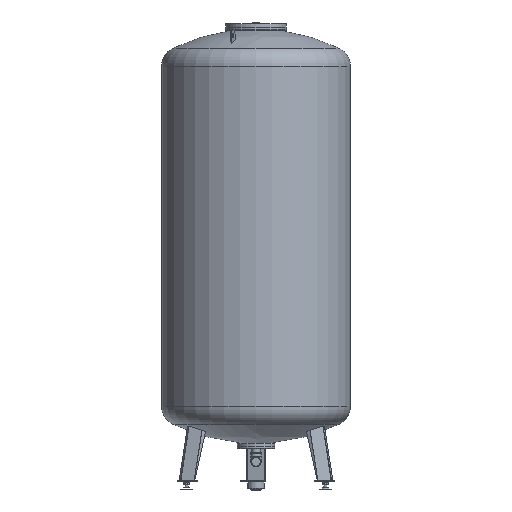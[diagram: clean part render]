
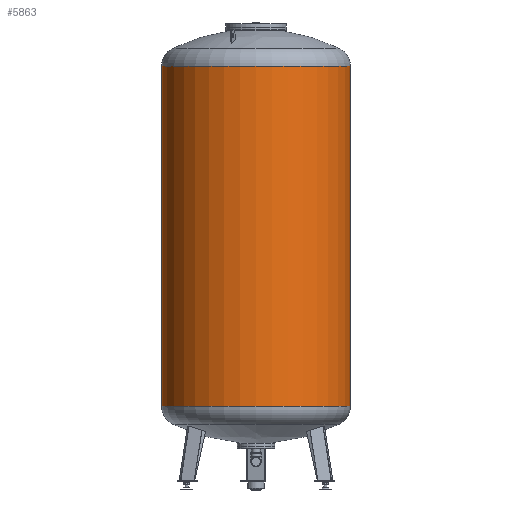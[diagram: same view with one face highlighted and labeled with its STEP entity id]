
A CAD part, left-side view. The second image highlights one B-rep face of the part: STEP entity #5863.
In plain terms, the highlighted cylindrical face has radius 500 mm (diameter 1000 mm), a full revolution.
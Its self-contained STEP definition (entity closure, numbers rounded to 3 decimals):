
#148=CYLINDRICAL_SURFACE('',#6430,500.);
#189=FACE_BOUND('',#797,.T.);
#455=FACE_OUTER_BOUND('',#796,.T.);
#796=EDGE_LOOP('',(#4568,#4569,#4570,#4571,#4572,#4573,#4574,#4575,#4576,
#4577,#4578,#4579,#4580,#4581));
#797=EDGE_LOOP('',(#4582,#4583,#4584,#4585));
#969=LINE('',#8501,#1406);
#972=LINE('',#8507,#1409);
#1086=LINE('',#9208,#1523);
#1112=LINE('',#9263,#1549);
#1200=LINE('',#9660,#1637);
#1201=LINE('',#9661,#1638);
#1406=VECTOR('',#6717,10.);
#1409=VECTOR('',#6722,10.);
#1523=VECTOR('',#7368,10.);
#1549=VECTOR('',#7412,10.);
#1637=VECTOR('',#7740,500.);
#1638=VECTOR('',#7741,500.);
#1840=CIRCLE('',#6035,500.);
#1841=CIRCLE('',#6040,500.);
#1993=CIRCLE('',#6301,500.);
#1994=CIRCLE('',#6302,500.);
#1995=CIRCLE('',#6310,500.);
#1996=CIRCLE('',#6311,500.);
#2056=CIRCLE('',#6426,500.);
#2057=CIRCLE('',#6427,500.);
#2060=CIRCLE('',#6431,500.);
#2061=CIRCLE('',#6432,500.);
#2182=VERTEX_POINT('',#8491);
#2183=VERTEX_POINT('',#8492);
#2186=VERTEX_POINT('',#8500);
#2188=VERTEX_POINT('',#8506);
#2390=VERTEX_POINT('',#9196);
#2391=VERTEX_POINT('',#9197);
#2394=VERTEX_POINT('',#9203);
#2395=VERTEX_POINT('',#9207);
#2414=VERTEX_POINT('',#9257);
#2415=VERTEX_POINT('',#9258);
#2513=VERTEX_POINT('',#9649);
#2514=VERTEX_POINT('',#9650);
#2515=VERTEX_POINT('',#9656);
#2516=VERTEX_POINT('',#9657);
#2752=EDGE_CURVE('',#2182,#2183,#1840,.T.);
#2756=EDGE_CURVE('',#2186,#2182,#969,.T.);
#2759=EDGE_CURVE('',#2183,#2188,#972,.T.);
#2763=EDGE_CURVE('',#2188,#2186,#1841,.T.);
#3060=EDGE_CURVE('',#2390,#2391,#1993,.T.);
#3064=EDGE_CURVE('',#2391,#2394,#1994,.T.);
#3065=EDGE_CURVE('',#2395,#2390,#1086,.T.);
#3090=EDGE_CURVE('',#2414,#2415,#1995,.T.);
#3092=EDGE_CURVE('',#2415,#2395,#1996,.T.);
#3093=EDGE_CURVE('',#2394,#2414,#1112,.T.);
#3245=EDGE_CURVE('',#2513,#2514,#2056,.T.);
#3246=EDGE_CURVE('',#2514,#2513,#2057,.T.);
#3249=EDGE_CURVE('',#2515,#2516,#2060,.T.);
#3250=EDGE_CURVE('',#2516,#2515,#2061,.T.);
#3251=EDGE_CURVE('',#2516,#2415,#1200,.T.);
#3252=EDGE_CURVE('',#2391,#2514,#1201,.T.);
#4568=ORIENTED_EDGE('',*,*,#3249,.F.);
#4569=ORIENTED_EDGE('',*,*,#3250,.F.);
#4570=ORIENTED_EDGE('',*,*,#3251,.T.);
#4571=ORIENTED_EDGE('',*,*,#3092,.T.);
#4572=ORIENTED_EDGE('',*,*,#3065,.T.);
#4573=ORIENTED_EDGE('',*,*,#3060,.T.);
#4574=ORIENTED_EDGE('',*,*,#3252,.T.);
#4575=ORIENTED_EDGE('',*,*,#3246,.T.);
#4576=ORIENTED_EDGE('',*,*,#3245,.T.);
#4577=ORIENTED_EDGE('',*,*,#3252,.F.);
#4578=ORIENTED_EDGE('',*,*,#3064,.T.);
#4579=ORIENTED_EDGE('',*,*,#3093,.T.);
#4580=ORIENTED_EDGE('',*,*,#3090,.T.);
#4581=ORIENTED_EDGE('',*,*,#3251,.F.);
#4582=ORIENTED_EDGE('',*,*,#2756,.T.);
#4583=ORIENTED_EDGE('',*,*,#2752,.T.);
#4584=ORIENTED_EDGE('',*,*,#2759,.T.);
#4585=ORIENTED_EDGE('',*,*,#2763,.T.);
#5863=ADVANCED_FACE('',(#455,#189),#148,.T.);
#6035=AXIS2_PLACEMENT_3D('',#8493,#6710,#6711);
#6040=AXIS2_PLACEMENT_3D('',#8514,#6730,#6731);
#6301=AXIS2_PLACEMENT_3D('',#9198,#7359,#7360);
#6302=AXIS2_PLACEMENT_3D('',#9205,#7364,#7365);
#6310=AXIS2_PLACEMENT_3D('',#9259,#7405,#7406);
#6311=AXIS2_PLACEMENT_3D('',#9261,#7408,#7409);
#6426=AXIS2_PLACEMENT_3D('',#9651,#7726,#7727);
#6427=AXIS2_PLACEMENT_3D('',#9652,#7728,#7729);
#6430=AXIS2_PLACEMENT_3D('',#9655,#7734,#7735);
#6431=AXIS2_PLACEMENT_3D('',#9658,#7736,#7737);
#6432=AXIS2_PLACEMENT_3D('',#9659,#7738,#7739);
#6710=DIRECTION('center_axis',(0.,0.,1.));
#6711=DIRECTION('ref_axis',(-1.,0.,0.));
#6717=DIRECTION('',(0.,0.,1.));
#6722=DIRECTION('',(0.,0.,-1.));
#6730=DIRECTION('center_axis',(0.,0.,-1.));
#6731=DIRECTION('ref_axis',(-1.,0.,0.));
#7359=DIRECTION('center_axis',(0.,0.,1.));
#7360=DIRECTION('ref_axis',(-1.,0.,0.));
#7364=DIRECTION('center_axis',(0.,0.,1.));
#7365=DIRECTION('ref_axis',(-1.,0.,0.));
#7368=DIRECTION('',(0.,0.,1.));
#7405=DIRECTION('center_axis',(0.,0.,-1.));
#7406=DIRECTION('ref_axis',(-1.,0.,0.));
#7408=DIRECTION('center_axis',(0.,0.,-1.));
#7409=DIRECTION('ref_axis',(-1.,0.,0.));
#7412=DIRECTION('',(0.,0.,-1.));
#7726=DIRECTION('center_axis',(0.,0.,-1.));
#7727=DIRECTION('ref_axis',(1.,0.,0.));
#7728=DIRECTION('center_axis',(0.,0.,-1.));
#7729=DIRECTION('ref_axis',(1.,0.,0.));
#7734=DIRECTION('center_axis',(0.,0.,-1.));
#7735=DIRECTION('ref_axis',(-1.,0.,0.));
#7736=DIRECTION('center_axis',(0.,0.,-1.));
#7737=DIRECTION('ref_axis',(1.,0.,0.));
#7738=DIRECTION('center_axis',(0.,0.,-1.));
#7739=DIRECTION('ref_axis',(1.,0.,0.));
#7740=DIRECTION('',(0.,0.,1.));
#7741=DIRECTION('',(0.,0.,1.));
#8491=CARTESIAN_POINT('',(388.871,-314.292,2194.5));
#8492=CARTESIAN_POINT('',(452.556,-212.586,2194.5));
#8493=CARTESIAN_POINT('Origin',(0.,0.,2194.5));
#8500=CARTESIAN_POINT('',(388.871,-314.292,2104.5));
#8501=CARTESIAN_POINT('',(388.871,-314.292,455.288));
#8506=CARTESIAN_POINT('',(452.556,-212.586,2104.5));
#8507=CARTESIAN_POINT('',(452.556,-212.586,455.288));
#8514=CARTESIAN_POINT('Origin',(0.,0.,2104.5));
#9196=CARTESIAN_POINT('',(486.595,-115.,1648.5));
#9197=CARTESIAN_POINT('',(500.,0.,1648.5));
#9198=CARTESIAN_POINT('Origin',(0.,0.,1648.5));
#9203=CARTESIAN_POINT('',(486.595,115.,1648.5));
#9205=CARTESIAN_POINT('Origin',(0.,0.,1648.5));
#9207=CARTESIAN_POINT('',(486.595,-115.,1027.8));
#9208=CARTESIAN_POINT('',(486.595,-115.,455.288));
#9257=CARTESIAN_POINT('',(486.595,115.,1027.8));
#9258=CARTESIAN_POINT('',(500.,0.,1027.8));
#9259=CARTESIAN_POINT('Origin',(0.,0.,1027.8));
#9261=CARTESIAN_POINT('Origin',(0.,0.,1027.8));
#9263=CARTESIAN_POINT('',(486.595,115.,455.288));
#9649=CARTESIAN_POINT('',(-500.,0.,2247.235));
#9650=CARTESIAN_POINT('',(500.,0.,2247.235));
#9651=CARTESIAN_POINT('Origin',(0.,0.,2247.235));
#9652=CARTESIAN_POINT('Origin',(0.,0.,2247.235));
#9655=CARTESIAN_POINT('Origin',(0.,0.,455.288));
#9656=CARTESIAN_POINT('',(-500.,0.,443.075));
#9657=CARTESIAN_POINT('',(500.,0.,443.075));
#9658=CARTESIAN_POINT('Origin',(0.,0.,443.075));
#9659=CARTESIAN_POINT('Origin',(0.,0.,443.075));
#9660=CARTESIAN_POINT('',(500.,0.,455.288));
#9661=CARTESIAN_POINT('',(500.,0.,455.288));
